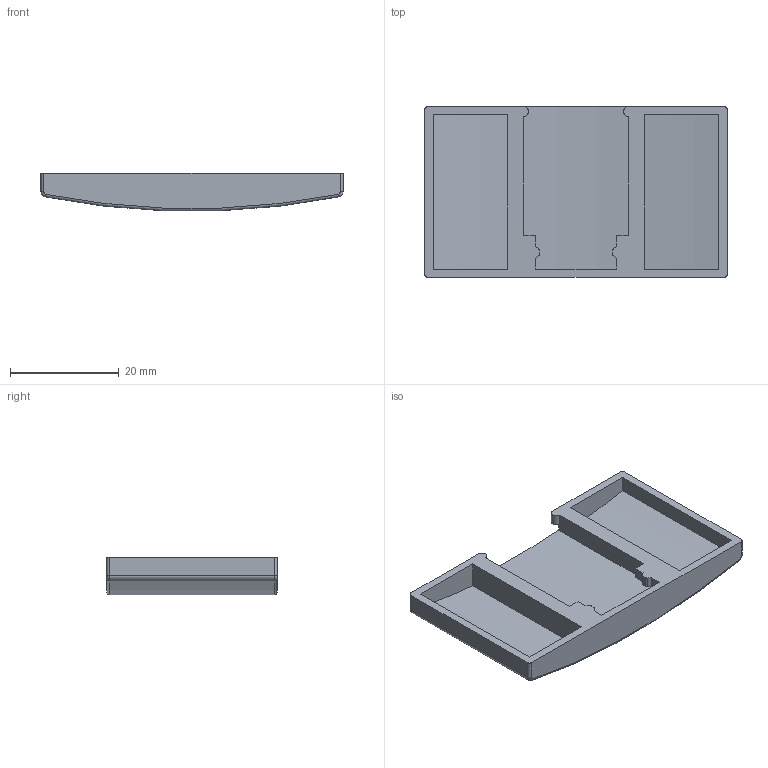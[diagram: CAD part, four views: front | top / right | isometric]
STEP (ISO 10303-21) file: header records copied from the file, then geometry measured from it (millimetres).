
FILE_DESCRIPTION (( 'STEP AP214' ), '1' );
FILE_NAME ('FG1.STEP', '2026-01-30T09:02:50', ( '' ), ( '' ), 'SwSTEP 2.0', 'SolidWorks 2024', '' );
FILE_SCHEMA (( 'AUTOMOTIVE_DESIGN' ));
Length unit declared in the file: millimetre
Products named in the file (1): FG1
Bounding box: 55.6 x 31.4 x 6.89 mm (x, y, z)
Volume: 4111.7 mm3; surface area: 5627.6 mm2
Topology: 1 solids, 1 shells, 56 faces, 148 edges, 96 vertices
Faces by surface type: plane 32, cylinder 18, torus 4, bspline 2
Entity records: 1831 total; most frequent: CARTESIAN_POINT 389, DIRECTION 300, ORIENTED_EDGE 296, EDGE_CURVE 148, VECTOR 102, LINE 102, AXIS2_PLACEMENT_3D 99, VERTEX_POINT 96
